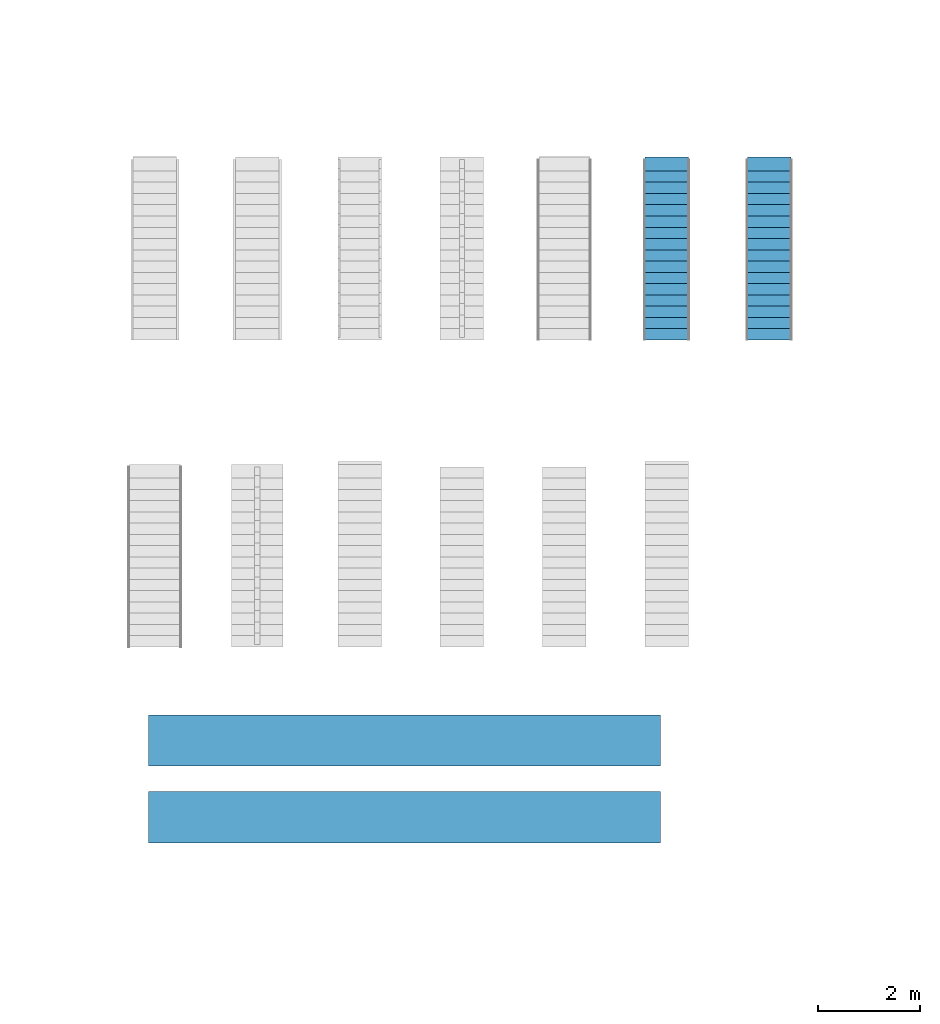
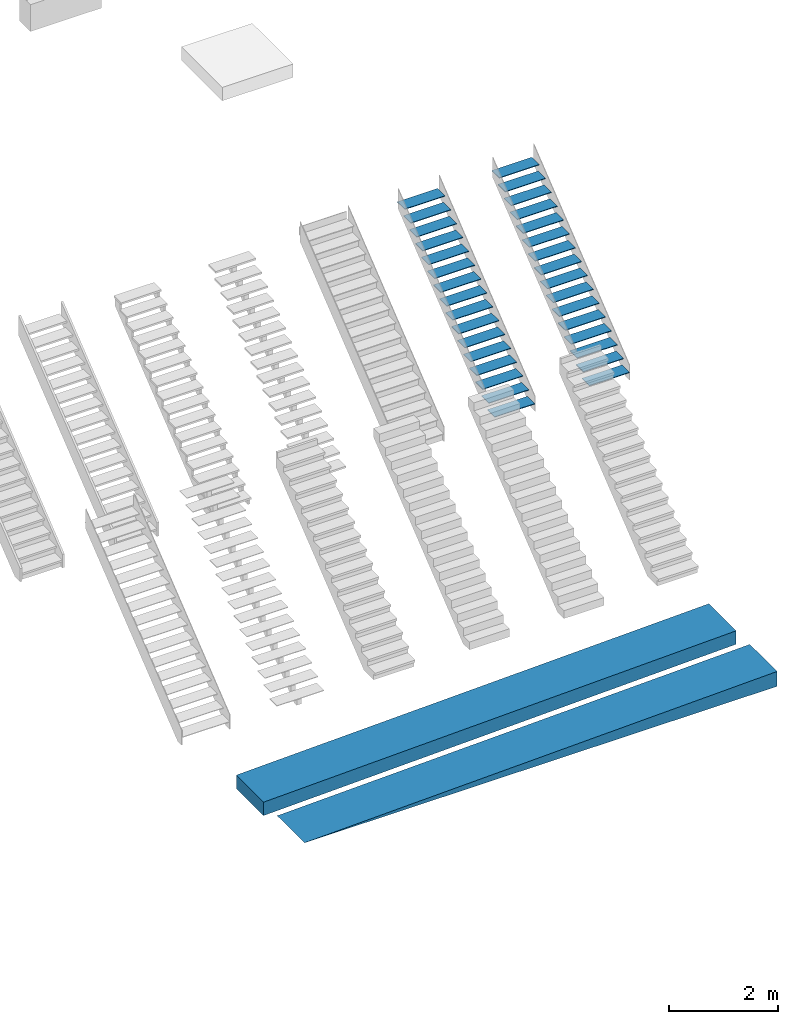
# One storey, part 7 of 14: 2 ramp flights, 2 stair flights, 4 elements without a shape of their own.
"""IFC2X3 building model written with IfcOpenShell, lengths in millimetres."""

from ifc_helpers import new_model, entity, si_unit, converted_unit, derived_unit, direction, frame, frame_2d, origin, origin_2d_with_axis, place, context, subcontext, project, spatial, polyline, rectangle, outline, extrude, material, element, aggregate, save


model = new_model("IFC2X3")

# Units and contexts
model_context = context("Model", 3, precision=0.01, world=origin(), true_north=direction((6.12303176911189e-17, 1.0)))
context_of_model = context(None, 3, precision=0.01, world=origin(), true_north=direction((6.12303176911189e-17, 1.0)))
body_context = subcontext(model_context, "Body", "Model", "MODEL_VIEW")
ifc_project = project(units=[si_unit("LENGTHUNIT", "METRE", prefix="MILLI"), si_unit("AREAUNIT", "SQUARE_METRE"), si_unit("VOLUMEUNIT", "CUBIC_METRE"), converted_unit("PLANEANGLEUNIT", "DEGREE", entity("IfcRatioMeasure", 0.0174532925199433), si_unit("PLANEANGLEUNIT", "RADIAN"), dimensions=[0, 0, 0, 0, 0, 0, 0]), si_unit("MASSUNIT", "GRAM", prefix="KILO"), si_unit("TIMEUNIT", "SECOND"), si_unit("FREQUENCYUNIT", "HERTZ"), si_unit("THERMODYNAMICTEMPERATUREUNIT", "KELVIN"), derived_unit("THERMALTRANSMITTANCEUNIT", [(si_unit("MASSUNIT", "GRAM", prefix="KILO"), 1), (si_unit("THERMODYNAMICTEMPERATUREUNIT", "KELVIN"), -1), (si_unit("TIMEUNIT", "SECOND"), -3)]), derived_unit("VOLUMETRICFLOWRATEUNIT", [(si_unit("LENGTHUNIT", "METRE"), 3), (si_unit("TIMEUNIT", "SECOND"), -1)]), si_unit("ELECTRICCURRENTUNIT", "AMPERE"), si_unit("ELECTRICVOLTAGEUNIT", "VOLT"), si_unit("POWERUNIT", "WATT")], contexts=[model_context, context_of_model])

# Site, building, storey
site_placement = place(None, origin())
site = spatial("IfcSite", under=ifc_project, at=site_placement, Name="Surface", CompositionType="ELEMENT")
building_placement = place(site_placement, origin())
building = spatial("IfcBuilding", under=site, at=building_placement, CompositionType="ELEMENT")
storey_placement = place(building_placement, origin())
storey = spatial("IfcBuildingStorey", under=building, at=storey_placement, Name="00_begane grond", CompositionType="ELEMENT", Elevation=0.0)

# Stair, stair flight
stair_1_placement = place(storey_placement, origin())
stair_1 = element("IfcStair", 1, at=stair_1_placement, inside=storey, Name="Assembled Stair:Stair", ShapeType="NOTDEFINED")
ifc_material_1 = material(Name="24_staal_gegalvaniseerd_rooster_generiek")
stair_flight_1_placement = place(stair_1_placement, frame((27349.8089026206, -25324.6322235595, 0.0)))
stair_flight_1 = element("IfcStairFlight", 2, at=stair_flight_1_placement, material=ifc_material_1, Name="Assembled Stair:Stair:69283 Run 1", ObjectType="Assembled Stair:24_ST_stalen trap_open_b=850_op=185_aan=150", NumberOfRiser=17, NumberOfTreads=16, RiserHeight=0.578971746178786, TreadLength=0.721784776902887, context=body_context, shape_type="SweptSolid", body=[
    extrude(rectangle(XDim=270.000000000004, YDim=849.999999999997, at=frame_2d((-2.1600499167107e-12, 0.0), x_axis=(1.0, 0.0))), frame((425.0, 135.0, 161.470588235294), z_axis=(0.0, 0.0, 1.0), x_axis=(0.0, -1.0, 0.0)), (0.0, 0.0, 1.0), 15.0),
    extrude(rectangle(XDim=269.999999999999, YDim=849.999999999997, at=origin_2d_with_axis()), frame((425.0, 355.0, 337.941176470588), z_axis=(0.0, 0.0, 1.0), x_axis=(0.0, -1.0, 0.0)), (0.0, 0.0, 1.0), 15.0),
    extrude(rectangle(XDim=270.000000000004, YDim=849.999999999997, at=frame_2d((2.1600499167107e-12, 0.0), x_axis=(1.0, 0.0))), frame((425.0, 575.0, 514.411764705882), z_axis=(0.0, 0.0, 1.0), x_axis=(0.0, -1.0, 0.0)), (0.0, 0.0, 1.0), 15.0),
    extrude(rectangle(XDim=269.999999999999, YDim=849.999999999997, at=origin_2d_with_axis()), frame((425.0, 795.0, 690.882352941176), z_axis=(0.0, 0.0, 1.0), x_axis=(0.0, -1.0, 0.0)), (0.0, 0.0, 1.0), 15.0),
    extrude(rectangle(XDim=270.000000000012, YDim=849.999999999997, at=frame_2d((-2.17426077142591e-12, 0.0), x_axis=(1.0, 0.0))), frame((425.0, 1015.0, 867.35294117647), z_axis=(0.0, 0.0, 1.0), x_axis=(0.0, -1.0, 0.0)), (0.0, 0.0, 1.0), 15.0),
    extrude(rectangle(XDim=269.999999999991, YDim=849.999999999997, at=frame_2d((4.33431068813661e-12, -2.1600499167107e-12), x_axis=(1.0, 0.0))), frame((425.0, 1235.0, 1043.82352941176), z_axis=(0.0, 0.0, 1.0), x_axis=(0.0, -1.0, 0.0)), (0.0, 0.0, 1.0), 15.0),
    extrude(rectangle(XDim=270.000000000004, YDim=849.999999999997, at=frame_2d((2.1600499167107e-12, 0.0), x_axis=(1.0, 0.0))), frame((425.0, 1455.0, 1220.29411764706), z_axis=(0.0, 0.0, 1.0), x_axis=(0.0, -1.0, 0.0)), (0.0, 0.0, 1.0), 15.0000000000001),
    extrude(rectangle(XDim=269.999999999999, YDim=849.999999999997, at=origin_2d_with_axis()), frame((425.0, 1675.0, 1396.76470588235), z_axis=(0.0, 0.0, 1.0), x_axis=(0.0, -1.0, 0.0)), (0.0, 0.0, 1.0), 15.0000000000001),
    extrude(rectangle(XDim=270.000000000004, YDim=849.999999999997, at=frame_2d((-2.1600499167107e-12, 0.0), x_axis=(1.0, 0.0))), frame((425.0, 1895.0, 1573.23529411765), z_axis=(0.0, 0.0, 1.0), x_axis=(0.0, -1.0, 0.0)), (0.0, 0.0, 1.0), 15.0000000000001),
    extrude(rectangle(XDim=269.999999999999, YDim=849.999999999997, at=origin_2d_with_axis()), frame((425.0, 2115.0, 1749.70588235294), z_axis=(0.0, 0.0, 1.0), x_axis=(0.0, -1.0, 0.0)), (0.0, 0.0, 1.0), 15.0000000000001),
    extrude(rectangle(XDim=270.000000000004, YDim=849.999999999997, at=frame_2d((2.1600499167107e-12, 0.0), x_axis=(1.0, 0.0))), frame((425.0, 2335.0, 1926.17647058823), z_axis=(0.0, 0.0, 1.0), x_axis=(0.0, -1.0, 0.0)), (0.0, 0.0, 1.0), 15.0000000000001),
    extrude(rectangle(XDim=270.000000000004, YDim=849.999999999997, at=frame_2d((2.1600499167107e-12, 0.0), x_axis=(1.0, 0.0))), frame((425.0, 2555.0, 2102.64705882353), z_axis=(0.0, 0.0, 1.0), x_axis=(0.0, -1.0, 0.0)), (0.0, 0.0, 1.0), 15.0000000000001),
    extrude(rectangle(XDim=269.999999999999, YDim=849.999999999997, at=origin_2d_with_axis()), frame((425.0, 2775.0, 2279.11764705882), z_axis=(0.0, 0.0, 1.0), x_axis=(0.0, -1.0, 0.0)), (0.0, 0.0, 1.0), 15.0000000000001),
    extrude(rectangle(XDim=270.000000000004, YDim=849.999999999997, at=frame_2d((-2.1600499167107e-12, 0.0), x_axis=(1.0, 0.0))), frame((425.0, 2995.0, 2455.58823529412), z_axis=(0.0, 0.0, 1.0), x_axis=(0.0, -1.0, 0.0)), (0.0, 0.0, 1.0), 14.9999999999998),
    extrude(rectangle(XDim=269.999999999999, YDim=849.999999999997, at=origin_2d_with_axis()), frame((425.0, 3215.0, 2632.05882352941), z_axis=(0.0, 0.0, 1.0), x_axis=(0.0, -1.0, 0.0)), (0.0, 0.0, 1.0), 14.9999999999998),
    extrude(rectangle(XDim=270.000000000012, YDim=849.999999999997, at=frame_2d((-6.49436060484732e-12, 0.0), x_axis=(1.0, 0.0))), frame((425.0, 3435.0, 2808.5294117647), z_axis=(0.0, 0.0, 1.0), x_axis=(0.0, -1.0, 0.0)), (0.0, 0.0, 1.0), 14.9999999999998),
])
aggregate(stair_1, [stair_flight_1])

stair_2_placement = place(storey_placement, origin())
stair_2 = element("IfcStair", 3, at=stair_2_placement, inside=storey, Name="Assembled Stair:Stair", ShapeType="NOTDEFINED")
stair_flight_2_placement = place(stair_2_placement, frame((29349.8089026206, -25324.6322235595, 0.0)))
stair_flight_2 = element("IfcStairFlight", 4, at=stair_flight_2_placement, material=ifc_material_1, Name="Assembled Stair:Stair:69288 Run 1", ObjectType="Assembled Stair:24_ST_stalen trap_open_b=850_op=185_aan=220", NumberOfRiser=17, NumberOfTreads=16, RiserHeight=0.578971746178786, TreadLength=0.721784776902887, context=body_context, shape_type="SweptSolid", body=[
    extrude(rectangle(XDim=270.000000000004, YDim=849.999999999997, at=frame_2d((-2.1600499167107e-12, 0.0), x_axis=(1.0, 0.0))), frame((425.0, 135.0, 161.470588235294), z_axis=(0.0, 0.0, 1.0), x_axis=(0.0, -1.0, 0.0)), (0.0, 0.0, 1.0), 15.0),
    extrude(rectangle(XDim=269.999999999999, YDim=849.999999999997, at=origin_2d_with_axis()), frame((425.0, 355.0, 337.941176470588), z_axis=(0.0, 0.0, 1.0), x_axis=(0.0, -1.0, 0.0)), (0.0, 0.0, 1.0), 15.0),
    extrude(rectangle(XDim=270.000000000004, YDim=849.999999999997, at=frame_2d((2.1600499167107e-12, 0.0), x_axis=(1.0, 0.0))), frame((425.0, 575.0, 514.411764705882), z_axis=(0.0, 0.0, 1.0), x_axis=(0.0, -1.0, 0.0)), (0.0, 0.0, 1.0), 15.0),
    extrude(rectangle(XDim=269.999999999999, YDim=849.999999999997, at=origin_2d_with_axis()), frame((425.0, 795.0, 690.882352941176), z_axis=(0.0, 0.0, 1.0), x_axis=(0.0, -1.0, 0.0)), (0.0, 0.0, 1.0), 15.0),
    extrude(rectangle(XDim=270.000000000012, YDim=849.999999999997, at=frame_2d((-6.49436060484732e-12, 0.0), x_axis=(1.0, 0.0))), frame((425.0, 1015.0, 867.35294117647), z_axis=(0.0, 0.0, 1.0), x_axis=(0.0, -1.0, 0.0)), (0.0, 0.0, 1.0), 15.0),
    extrude(rectangle(XDim=269.999999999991, YDim=849.999999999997, at=frame_2d((4.33431068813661e-12, -2.1600499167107e-12), x_axis=(1.0, 0.0))), frame((425.0, 1235.0, 1043.82352941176), z_axis=(0.0, 0.0, 1.0), x_axis=(0.0, -1.0, 0.0)), (0.0, 0.0, 1.0), 15.0),
    extrude(rectangle(XDim=270.000000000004, YDim=849.999999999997, at=frame_2d((2.1600499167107e-12, 0.0), x_axis=(1.0, 0.0))), frame((425.0, 1455.0, 1220.29411764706), z_axis=(0.0, 0.0, 1.0), x_axis=(0.0, -1.0, 0.0)), (0.0, 0.0, 1.0), 15.0000000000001),
    extrude(rectangle(XDim=269.999999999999, YDim=849.999999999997, at=origin_2d_with_axis()), frame((425.0, 1675.0, 1396.76470588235), z_axis=(0.0, 0.0, 1.0), x_axis=(0.0, -1.0, 0.0)), (0.0, 0.0, 1.0), 15.0000000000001),
    extrude(rectangle(XDim=270.000000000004, YDim=849.999999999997, at=frame_2d((-2.1600499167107e-12, 0.0), x_axis=(1.0, 0.0))), frame((425.0, 1895.0, 1573.23529411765), z_axis=(0.0, 0.0, 1.0), x_axis=(0.0, -1.0, 0.0)), (0.0, 0.0, 1.0), 15.0000000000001),
    extrude(rectangle(XDim=269.999999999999, YDim=849.999999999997, at=origin_2d_with_axis()), frame((425.0, 2115.0, 1749.70588235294), z_axis=(0.0, 0.0, 1.0), x_axis=(0.0, -1.0, 0.0)), (0.0, 0.0, 1.0), 15.0000000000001),
    extrude(rectangle(XDim=270.000000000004, YDim=849.999999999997, at=frame_2d((2.1600499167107e-12, 0.0), x_axis=(1.0, 0.0))), frame((425.0, 2335.0, 1926.17647058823), z_axis=(0.0, 0.0, 1.0), x_axis=(0.0, -1.0, 0.0)), (0.0, 0.0, 1.0), 15.0000000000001),
    extrude(rectangle(XDim=270.000000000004, YDim=849.999999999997, at=frame_2d((2.1600499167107e-12, 0.0), x_axis=(1.0, 0.0))), frame((425.0, 2555.0, 2102.64705882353), z_axis=(0.0, 0.0, 1.0), x_axis=(0.0, -1.0, 0.0)), (0.0, 0.0, 1.0), 15.0000000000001),
    extrude(rectangle(XDim=269.999999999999, YDim=849.999999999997, at=origin_2d_with_axis()), frame((425.0, 2775.0, 2279.11764705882), z_axis=(0.0, 0.0, 1.0), x_axis=(0.0, -1.0, 0.0)), (0.0, 0.0, 1.0), 15.0000000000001),
    extrude(rectangle(XDim=270.000000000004, YDim=849.999999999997, at=frame_2d((-2.1600499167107e-12, 0.0), x_axis=(1.0, 0.0))), frame((425.0, 2995.0, 2455.58823529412), z_axis=(0.0, 0.0, 1.0), x_axis=(0.0, -1.0, 0.0)), (0.0, 0.0, 1.0), 14.9999999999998),
    extrude(rectangle(XDim=269.999999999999, YDim=849.999999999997, at=origin_2d_with_axis()), frame((425.0, 3215.0, 2632.05882352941), z_axis=(0.0, 0.0, 1.0), x_axis=(0.0, -1.0, 0.0)), (0.0, 0.0, 1.0), 14.9999999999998),
    extrude(rectangle(XDim=270.000000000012, YDim=849.999999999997, at=frame_2d((-6.49436060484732e-12, 0.0), x_axis=(1.0, 0.0))), frame((425.0, 3435.0, 2808.5294117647), z_axis=(0.0, 0.0, 1.0), x_axis=(0.0, -1.0, 0.0)), (0.0, 0.0, 1.0), 14.9999999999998),
])
aggregate(stair_2, [stair_flight_2])

# Ramp, ramp flight
ramp_1_placement = place(storey_placement, origin())
ramp_1 = element("IfcRamp", 5, at=ramp_1_placement, inside=storey, Name="Ramp:24_RA_hellingbaan_beton_prefab_300", ObjectType="Ramp:24_RA_hellingbaan_beton_prefab_300:1413", ShapeType="NOTDEFINED")
ifc_material_2 = material(Name="24_beton_prefab_generiek")
ramp_flight_1_placement = place(ramp_1_placement, origin())
ramp_flight_1 = element("IfcRampFlight", 6, at=ramp_flight_1_placement, material=ifc_material_2, Name="Ramp:24_RA_hellingbaan_beton_prefab_300:1", ObjectType="Ramp:24_RA_hellingbaan_beton_prefab_300:1413", context=body_context, shape_type="SweptSolid", body=[
    extrude(outline(polyline([(-316.749976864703, -5000.0), (-16.5833564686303, -5000.0), (316.749976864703, 5000.0), (16.5833564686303, 5000.0), (-316.749976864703, -5000.0)])), frame((22650.3204725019, -33650.6479444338, 16.5833564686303), z_axis=(0.0, 1.0, 0.0), x_axis=(0.0, 0.0, -1.0)), (0.0, 0.0, 1.0), 999.999999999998),
])
aggregate(ramp_1, [ramp_flight_1])

ramp_2_placement = place(storey_placement, origin())
ramp_2 = element("IfcRamp", 7, at=ramp_2_placement, inside=storey, Name="Ramp:24_RA_hellingbaan_beton_prefab_solid", ObjectType="Ramp:24_RA_hellingbaan_beton_prefab_solid", ShapeType="NOTDEFINED")
ramp_flight_2_placement = place(ramp_2_placement, origin())
ramp_flight_2 = element("IfcRampFlight", 8, at=ramp_flight_2_placement, material=ifc_material_2, Name="Ramp:24_RA_hellingbaan_beton_prefab_solid:1", ObjectType="Ramp:24_RA_hellingbaan_beton_prefab_solid", context=body_context, shape_type="SweptSolid", body=[
    extrude(outline(polyline([(-222.222222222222, -3333.33333333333), (111.111111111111, -3333.33333333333), (111.111111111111, 6666.66666666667), (-222.222222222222, -3333.33333333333)])), frame((24316.9871391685, -35150.6479444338, 111.111111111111), z_axis=(0.0, 1.0, 0.0), x_axis=(0.0, 0.0, -1.0)), (0.0, 0.0, 1.0), 999.999999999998),
])
aggregate(ramp_2, [ramp_flight_2])

save(model, "model.ifc")
